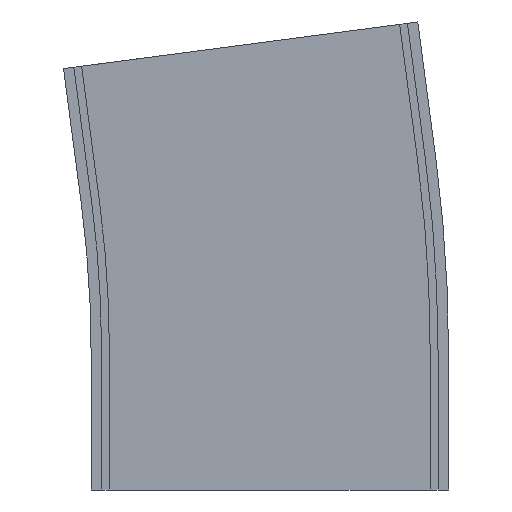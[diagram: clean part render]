
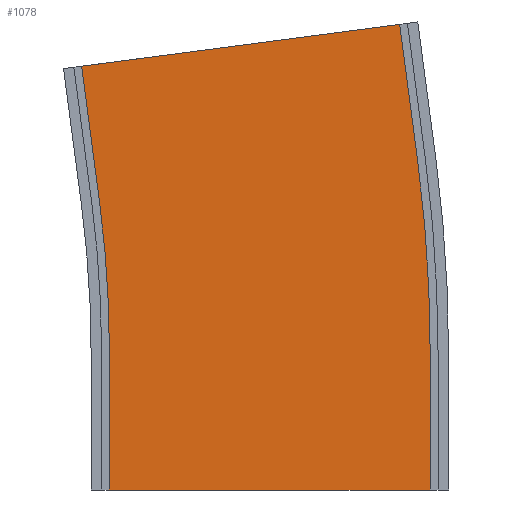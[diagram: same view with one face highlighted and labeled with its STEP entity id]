
A CAD part, left-side view. The second image highlights one B-rep face of the part: STEP entity #1078.
In plain terms, the highlighted planar face has unit normal (-1, 0, 0).
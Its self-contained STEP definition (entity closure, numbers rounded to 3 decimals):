
#25 = DIRECTION ( 'NONE',  ( 0., 0., -1. ) ) ;
#38 = LINE ( 'NONE', #1297, #474 ) ;
#40 = DIRECTION ( 'NONE',  ( 0., 0.131, 0.991 ) ) ;
#49 = ORIENTED_EDGE ( 'NONE', *, *, #660, .T. ) ;
#53 = VECTOR ( 'NONE', #1120, 1000. ) ;
#74 = EDGE_CURVE ( 'NONE', #776, #654, #38, .T. ) ;
#126 = DIRECTION ( 'NONE',  ( 1., 0., 0. ) ) ;
#181 = CIRCLE ( 'NONE', #499, 438.75 ) ;
#183 = VERTEX_POINT ( 'NONE', #575 ) ;
#275 = CARTESIAN_POINT ( 'NONE',  ( -211.5, 500., 52.5 ) ) ;
#290 = EDGE_CURVE ( 'NONE', #631, #927, #336, .T. ) ;
#336 = LINE ( 'NONE', #1089, #1091 ) ;
#340 = CARTESIAN_POINT ( 'NONE',  ( -211.5, 61.25, 52.5 ) ) ;
#362 = EDGE_CURVE ( 'NONE', #654, #1219, #982, .T. ) ;
#378 = CARTESIAN_POINT ( 'NONE',  ( -211.5, 61.25, 0. ) ) ;
#409 = AXIS2_PLACEMENT_3D ( 'NONE', #275, #826, #496 ) ;
#427 = CARTESIAN_POINT ( 'NONE',  ( -211.5, -61.25, 52.5 ) ) ;
#448 = VERTEX_POINT ( 'NONE', #378 ) ;
#451 = DIRECTION ( 'NONE',  ( 0., 0., 1. ) ) ;
#460 = LINE ( 'NONE', #1134, #753 ) ;
#465 = CARTESIAN_POINT ( 'NONE',  ( -211.5, 500., 52.5 ) ) ;
#470 = DIRECTION ( 'NONE',  ( 0., 0., -1. ) ) ;
#474 = VECTOR ( 'NONE', #1182, 1000. ) ;
#485 = CARTESIAN_POINT ( 'NONE',  ( -211.5, -49.596, 177.809 ) ) ;
#486 = EDGE_CURVE ( 'NONE', #631, #1280, #739, .T. ) ;
#496 = DIRECTION ( 'NONE',  ( 0., 0., 1. ) ) ;
#499 = AXIS2_PLACEMENT_3D ( 'NONE', #465, #894, #451 ) ;
#519 = VECTOR ( 'NONE', #470, 1000. ) ;
#538 = LINE ( 'NONE', #340, #519 ) ;
#575 = CARTESIAN_POINT ( 'NONE',  ( -211.5, 61.25, 52.5 ) ) ;
#631 = VERTEX_POINT ( 'NONE', #977 ) ;
#648 = ORIENTED_EDGE ( 'NONE', *, *, #362, .F. ) ;
#654 = VERTEX_POINT ( 'NONE', #990 ) ;
#660 = EDGE_CURVE ( 'NONE', #183, #448, #538, .T. ) ;
#674 = EDGE_LOOP ( 'NONE', ( #1277, #1220, #867, #746, #648, #1367, #1375, #49 ) ) ;
#679 = CARTESIAN_POINT ( 'NONE',  ( -211.5, -56.448, 125.758 ) ) ;
#696 = CARTESIAN_POINT ( 'NONE',  ( -211.5, -49.596, 177.809 ) ) ;
#700 = EDGE_CURVE ( 'NONE', #183, #776, #181, .T. ) ;
#725 = AXIS2_PLACEMENT_3D ( 'NONE', #427, #126, #898 ) ;
#739 = CIRCLE ( 'NONE', #409, 561.25 ) ;
#746 = ORIENTED_EDGE ( 'NONE', *, *, #1172, .T. ) ;
#747 = FACE_OUTER_BOUND ( 'NONE', #674, .T. ) ;
#753 = VECTOR ( 'NONE', #1353, 1000. ) ;
#776 = VERTEX_POINT ( 'NONE', #1132 ) ;
#826 = DIRECTION ( 'NONE',  ( -1., 0., 0. ) ) ;
#867 = ORIENTED_EDGE ( 'NONE', *, *, #486, .T. ) ;
#879 = LINE ( 'NONE', #679, #1038 ) ;
#894 = DIRECTION ( 'NONE',  ( -1., 0., 0. ) ) ;
#898 = DIRECTION ( 'NONE',  ( 0., 1., 0. ) ) ;
#925 = CARTESIAN_POINT ( 'NONE',  ( -211.5, -56.448, 125.758 ) ) ;
#927 = VERTEX_POINT ( 'NONE', #1141 ) ;
#977 = CARTESIAN_POINT ( 'NONE',  ( -211.5, -61.25, 52.5 ) ) ;
#982 = LINE ( 'NONE', #696, #53 ) ;
#990 = CARTESIAN_POINT ( 'NONE',  ( -211.5, 71.856, 161.819 ) ) ;
#1038 = VECTOR ( 'NONE', #40, 1000. ) ;
#1078 = ADVANCED_FACE ( 'NONE', ( #747 ), #1410, .F. ) ;
#1089 = CARTESIAN_POINT ( 'NONE',  ( -211.5, -61.25, 52.5 ) ) ;
#1091 = VECTOR ( 'NONE', #25, 1000. ) ;
#1120 = DIRECTION ( 'NONE',  ( 0., -0.991, 0.131 ) ) ;
#1132 = CARTESIAN_POINT ( 'NONE',  ( -211.5, 65.004, 109.768 ) ) ;
#1134 = CARTESIAN_POINT ( 'NONE',  ( -211.5, -61.25, 0. ) ) ;
#1141 = CARTESIAN_POINT ( 'NONE',  ( -211.5, -61.25, 0. ) ) ;
#1172 = EDGE_CURVE ( 'NONE', #1280, #1219, #879, .T. ) ;
#1182 = DIRECTION ( 'NONE',  ( 0., 0.131, 0.991 ) ) ;
#1213 = EDGE_CURVE ( 'NONE', #448, #927, #460, .T. ) ;
#1219 = VERTEX_POINT ( 'NONE', #485 ) ;
#1220 = ORIENTED_EDGE ( 'NONE', *, *, #290, .F. ) ;
#1277 = ORIENTED_EDGE ( 'NONE', *, *, #1213, .T. ) ;
#1280 = VERTEX_POINT ( 'NONE', #925 ) ;
#1297 = CARTESIAN_POINT ( 'NONE',  ( -211.5, 65.004, 109.768 ) ) ;
#1353 = DIRECTION ( 'NONE',  ( 0., -1., 0. ) ) ;
#1367 = ORIENTED_EDGE ( 'NONE', *, *, #74, .F. ) ;
#1375 = ORIENTED_EDGE ( 'NONE', *, *, #700, .F. ) ;
#1410 = PLANE ( 'NONE',  #725 ) ;
